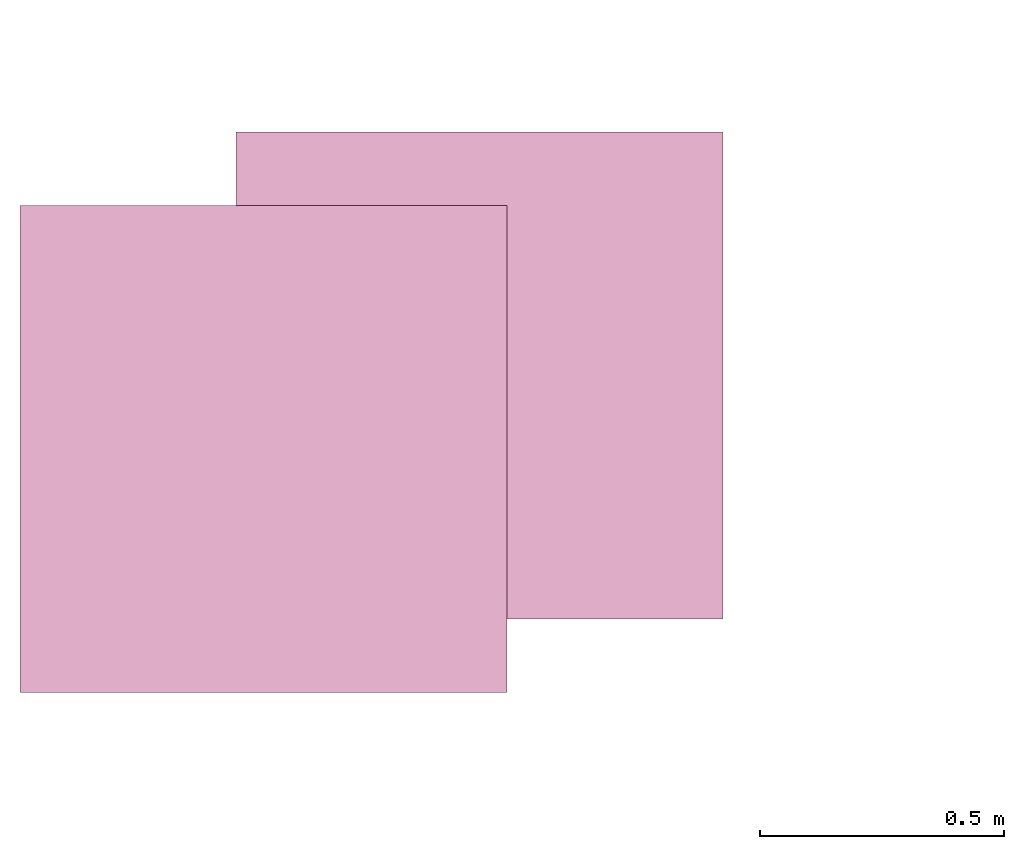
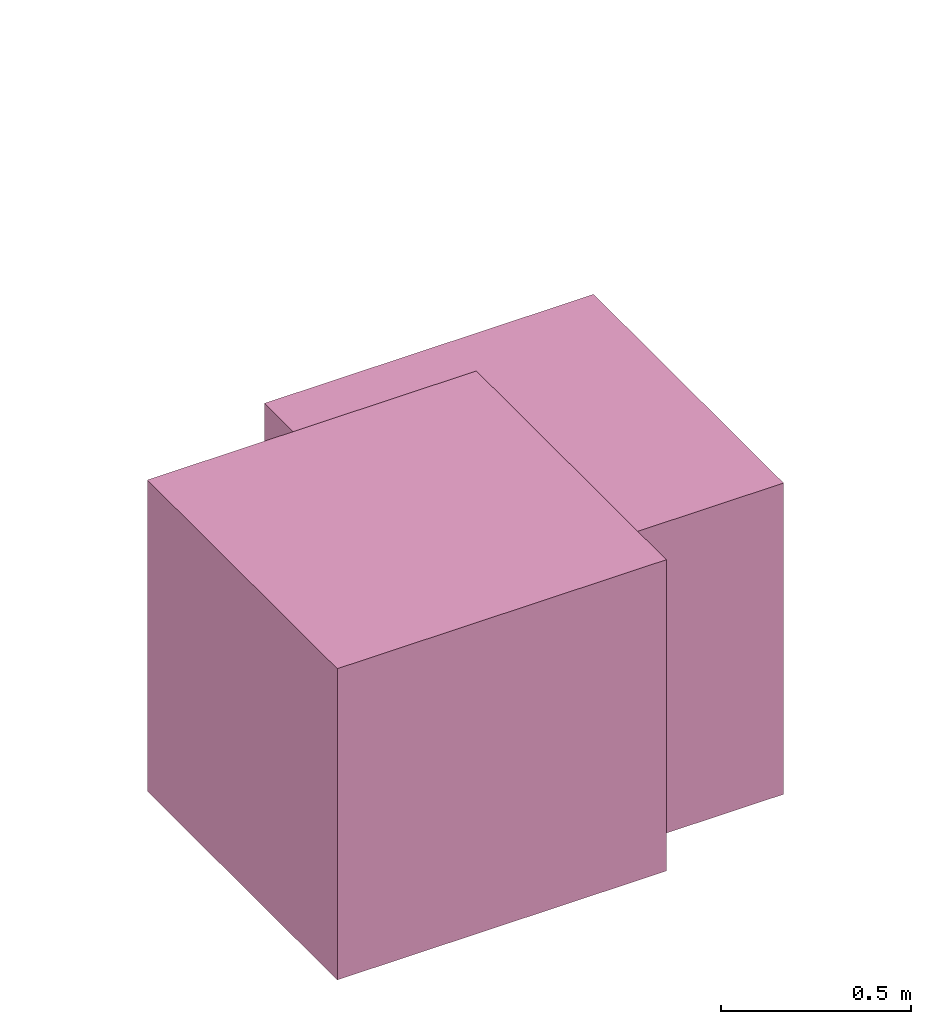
# One storey, part 5 of 5: 2 furnishings.
"""IFC2X3 building model written with IfcOpenShell, lengths in millimetres."""

import ifcopenshell
import ifcopenshell.guid

model = None  # the IFC model being written
_history = None  # IfcOwnerHistory: only IFC2X3 demands one
_inside = {}  # id of a spatial element -> (the spatial element, [elements in it])
_under = {}  # id of a project, library or spatial element -> (it, [spatial elements below it])
_declared = {}  # id of a project -> (the project, [libraries it declares])
_typed = {}  # id of a type object -> (the type object, [elements of that type])
_made_of = {}  # id of a material, layer set ... -> (it, [elements and type objects made of it])


def new_model(schema):
    """Start an empty IFC model of exactly this schema.

    Asked for "IFC4X3", IfcOpenShell would pick the latest addendum, in which some entities
    have other attributes; the version numbers below select the first issue.
    IFC2X3 requires an IfcOwnerHistory on every rooted entity: one is made here for all.
    """
    global model, _history
    if schema == "IFC4X3":
        model = ifcopenshell.file(schema_version=(4, 3, 0, 0))
    else:
        model = ifcopenshell.file(schema=schema)
    _inside.clear()
    _under.clear()
    _declared.clear()
    _typed.clear()
    _made_of.clear()
    _history = None
    if model.schema == "IFC2X3":
        org = make("IfcOrganization", Name="unknown")
        user = make(
            "IfcPersonAndOrganization",
            ThePerson=make("IfcPerson", FamilyName="unknown"),
            TheOrganization=org,
        )
        app = make(
            "IfcApplication",
            ApplicationDeveloper=org,
            Version="unknown",
            ApplicationFullName="unknown",
            ApplicationIdentifier="unknown",
        )
        _history = make(
            "IfcOwnerHistory",
            OwningUser=user,
            OwningApplication=app,
            ChangeAction="ADDED",
            CreationDate=0,
        )
    return model


def make(cls, **values):
    """One entity of the class cls with the attributes given. An attribute that is None is left unset."""
    return model.create_entity(
        cls, **{name: value for name, value in values.items() if value is not None}
    )


def entity(cls, *values):
    """Any entity or typed value of the class cls, its attributes in the order of the schema. None: left unset."""
    e = model.create_entity(cls)
    for i, value in enumerate(values):
        if value is not None:
            e[i] = value
    return e


def rooted(cls, **values):
    """An entity with a GlobalId (a new one), such as an element, a storey or a relation."""
    return make(cls, GlobalId=ifcopenshell.guid.new(), OwnerHistory=_history, **values)


def si_unit(unit_type, name, prefix=None):
    """IfcSIUnit, for example si_unit("LENGTHUNIT", "METRE", prefix="MILLI")."""
    return make("IfcSIUnit", UnitType=unit_type, Prefix=prefix, Name=name)


def converted_unit(unit_type, name, factor, base, dimensions=None, offset=None):
    """IfcConversionBasedUnit, such as the inch: factor (a typed value) times the base unit."""
    return make(
        "IfcConversionBasedUnit"
        if offset is None
        else "IfcConversionBasedUnitWithOffset",
        ConversionOffset=offset,
        Dimensions=None
        if dimensions is None
        else entity("IfcDimensionalExponents", *dimensions),
        UnitType=unit_type,
        Name=name,
        ConversionFactor=make(
            "IfcMeasureWithUnit", ValueComponent=factor, UnitComponent=base
        ),
    )


def derived_unit(unit_type, elements):
    """IfcDerivedUnit: a product of units, each with its exponent."""
    return make(
        "IfcDerivedUnit",
        Elements=[
            make("IfcDerivedUnitElement", Unit=unit, Exponent=power)
            for unit, power in elements
        ],
        UnitType=unit_type,
    )


def money_unit(currency):
    """IfcMonetaryUnit."""
    return make("IfcMonetaryUnit", Currency=currency)


def assignment(units):
    """IfcUnitAssignment: the units of a project."""
    return None if units is None else make("IfcUnitAssignment", Units=units)


def point(xyz):
    """IfcCartesianPoint."""
    return None if xyz is None else make("IfcCartesianPoint", Coordinates=xyz)


def direction(xyz):
    """IfcDirection."""
    return None if xyz is None else make("IfcDirection", DirectionRatios=xyz)


def frame(location, z_axis=None, x_axis=None):
    """IfcAxis2Placement3D, a coordinate frame: its origin and axes. An axis left out is left unset."""
    return make(
        "IfcAxis2Placement3D",
        Location=point(location),
        Axis=direction(z_axis),
        RefDirection=direction(x_axis),
    )


def origin_with_axes():
    """The frame at (0, 0, 0) with the z axis (0, 0, 1) and the x axis (1, 0, 0) written out."""
    return frame((0.0, 0.0, 0.0), z_axis=(0.0, 0.0, 1.0), x_axis=(1.0, 0.0, 0.0))


def place(relative_to, where):
    """IfcLocalPlacement: puts the frame where relative to a parent placement (None: the world)."""
    return make(
        "IfcLocalPlacement", PlacementRelTo=relative_to, RelativePlacement=where
    )


def context(
    kind, dimensions, precision=None, world=None, true_north=None, identifier=None
):
    """IfcGeometricRepresentationContext, for example the 3D "Model" context."""
    return make(
        "IfcGeometricRepresentationContext",
        ContextIdentifier=identifier,
        ContextType=kind,
        CoordinateSpaceDimension=dimensions,
        Precision=precision,
        WorldCoordinateSystem=world,
        TrueNorth=true_north,
    )


def subcontext(parent, identifier, kind, view, scale=None):
    """IfcGeometricRepresentationSubContext, for example "Body" below "Model"."""
    return make(
        "IfcGeometricRepresentationSubContext",
        ContextIdentifier=identifier,
        ContextType=kind,
        ParentContext=parent,
        TargetScale=scale,
        TargetView=view,
    )


def project(units=None, contexts=None):
    """IfcProject with its units and contexts."""
    return rooted(
        "IfcProject",
        Name="project",
        RepresentationContexts=contexts,
        UnitsInContext=assignment(units),
    )


def spatial(cls, under=None, at=None, **own):
    """A site, building, storey or space (cls), placed at a placement, below another one or the project."""
    s = rooted(cls, ObjectPlacement=at, **own)
    if under is not None:
        _under.setdefault(under.id(), (under, []))[1].append(s)
    return s


def faces_of(points, faces, orient=None, outer=None):
    """IfcFace entities. A face is a list of loops; a loop is a list of indices into points, from 0.

    orient and outer hold one flag for each loop. By default every Orientation is true, the
    first loop of a face is its IfcFaceOuterBound and the others are IfcFaceBound.
    """
    made = []
    for i, loops in enumerate(faces):
        bounds = []
        for j, loop in enumerate(loops):
            is_outer = j == 0 if outer is None else outer[i][j]
            bounds.append(
                make(
                    "IfcFaceOuterBound" if is_outer else "IfcFaceBound",
                    Bound=make("IfcPolyLoop", Polygon=[points[k] for k in loop]),
                    Orientation=True if orient is None else orient[i][j],
                )
            )
        made.append(make("IfcFace", Bounds=bounds))
    return made


def faceted_brep(points, faces, orient=None, outer=None, voids=None):
    """IfcFacetedBrep: a solid bounded by flat faces; with voids (closed shells), ...WithVoids."""
    shared = [point(p) for p in points]
    hull = make("IfcClosedShell", CfsFaces=faces_of(shared, faces, orient, outer))
    if voids is None:
        return make("IfcFacetedBrep", Outer=hull)
    return make(
        "IfcFacetedBrepWithVoids",
        Outer=hull,
        Voids=[
            make(cls, CfsFaces=faces_of(shared, fs, o, b)) for cls, fs, o, b in voids
        ],
    )


def shape(context_of_items, identifier, shape_type, items):
    """IfcShapeRepresentation: the items that make up one representation, for example the "Body"."""
    return make(
        "IfcShapeRepresentation",
        ContextOfItems=context_of_items,
        RepresentationIdentifier=identifier,
        RepresentationType=shape_type,
        Items=items,
    )


def source(mapping_origin, context_of_items, identifier, shape_type, items):
    """IfcRepresentationMap: a shape defined once, which mapped items show again and again."""
    return make(
        "IfcRepresentationMap",
        MappingOrigin=mapping_origin,
        MappedRepresentation=shape(context_of_items, identifier, shape_type, items),
    )


def transform(
    local_origin,
    x_axis=None,
    y_axis=None,
    z_axis=None,
    scale=None,
    scale2=None,
    scale3=None,
    uniform=True,
):
    """IfcCartesianTransformationOperator3D, or its non-uniform kind. x_axis, y_axis, z_axis: its Axis1, 2, 3."""
    if uniform:
        return make(
            "IfcCartesianTransformationOperator3D",
            Axis1=direction(x_axis),
            Axis2=direction(y_axis),
            LocalOrigin=point(local_origin),
            Scale=scale,
            Axis3=direction(z_axis),
        )
    return make(
        "IfcCartesianTransformationOperator3DnonUniform",
        Axis1=direction(x_axis),
        Axis2=direction(y_axis),
        LocalOrigin=point(local_origin),
        Scale=scale,
        Axis3=direction(z_axis),
        Scale2=scale2,
        Scale3=scale3,
    )


def mapped(mapping_source, mapping_target):
    """IfcMappedItem: shows the shape of a source again, moved by a transform."""
    return make(
        "IfcMappedItem", MappingSource=mapping_source, MappingTarget=mapping_target
    )


def made_of(thing, what):
    """Note that an element or type object is made of a material, layer set ...; save() writes the relation."""
    if what is not None:
        _made_of.setdefault(what.id(), (what, []))[1].append(thing)
    return thing


def type_object(cls, material=None, **own):
    """A type object (cls), such as IfcWallType, which elements share."""
    return made_of(rooted(cls, **own), material)


def type_shapes(of_type, sources):
    """Give a type object the sources (RepresentationMaps) that its elements show as mapped items."""
    of_type.RepresentationMaps = sources


def element(
    cls,
    number,
    at=None,
    inside=None,
    cuts=None,
    type_object=None,
    material=None,
    context=None,
    identifier="Body",
    shape_type=None,
    held_by="IfcProductDefinitionShape",
    body=None,
    shapes=None,
    **own,
):
    """One element of the class cls, such as IfcWall. Its Tag is "e" and its number.

    at: its placement. inside: the storey or other place that contains it. cuts: it is an
    opening in that element (IfcRelVoidsElement). A single representation is given by context,
    identifier, shape_type and body (its items); several are given by shapes. held_by: the class
    of the entity that holds the representations. save() writes the other relations.
    """
    e = rooted(cls, Tag="e%d" % number, ObjectPlacement=at, **own)
    if body is not None:
        shapes = [shape(context, identifier, shape_type, body)]
    if shapes is not None:
        e.Representation = make(held_by, Representations=shapes)
    if inside is not None:
        _inside.setdefault(inside.id(), (inside, []))[1].append(e)
    if cuts is not None:
        rooted(
            "IfcRelVoidsElement", RelatingBuildingElement=cuts, RelatedOpeningElement=e
        )
    if type_object is not None:
        _typed.setdefault(type_object.id(), (type_object, []))[1].append(e)
    return made_of(e, material)


def aggregate(whole, parts):
    """IfcRelAggregates: a whole, such as a stair, and the parts it consists of."""
    return rooted("IfcRelAggregates", RelatingObject=whole, RelatedObjects=parts)


def save(model, path):
    """Write the relations noted so far, then the file.

    IfcRelAggregates (storeys below a building ...), IfcRelContainedInSpatialStructure (elements
    in a storey), IfcRelDefinesByType, IfcRelAssociatesMaterial and IfcRelDeclares: one each for
    every whole, place, type object, material and project.
    """
    for whole, parts in _under.values():
        aggregate(whole, parts)
    for where, things in _inside.values():
        rooted(
            "IfcRelContainedInSpatialStructure",
            RelatedElements=things,
            RelatingStructure=where,
        )
    for kind, things in _typed.values():
        rooted("IfcRelDefinesByType", RelatedObjects=things, RelatingType=kind)
    for what, things in _made_of.values():
        rooted("IfcRelAssociatesMaterial", RelatedObjects=things, RelatingMaterial=what)
    for by, libraries in _declared.values():
        rooted("IfcRelDeclares", RelatingContext=by, RelatedDefinitions=libraries)
    model.write(path)


model = new_model("IFC2X3")

# Units and contexts
model_context = context("Model", 3, precision=0.01, world=origin_with_axes(), true_north=direction((0.0, 1.0)))
body_context = subcontext(model_context, "Body", "Model", "MODEL_VIEW")
ifc_project = project(units=[si_unit("LENGTHUNIT", "METRE", prefix="MILLI"), si_unit("AREAUNIT", "SQUARE_METRE"), si_unit("VOLUMEUNIT", "CUBIC_METRE"), converted_unit("PLANEANGLEUNIT", "DEGREE", entity("IfcPlaneAngleMeasure", 0.0174532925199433), si_unit("PLANEANGLEUNIT", "RADIAN"), dimensions=[0, 0, 0, 0, 0, 0, 0]), money_unit("EUR"), converted_unit("TIMEUNIT", "Year", entity("IfcTimeMeasure", 31557600.0), si_unit("TIMEUNIT", "SECOND"), dimensions=[0, 0, 1, 0, 0, 0, 0]), si_unit("MASSUNIT", "GRAM", prefix="KILO"), si_unit("THERMODYNAMICTEMPERATUREUNIT", "DEGREE_CELSIUS"), si_unit("LUMINOUSINTENSITYUNIT", "LUMEN"), si_unit("ENERGYUNIT", "JOULE", prefix="MEGA"), derived_unit("THERMALCONDUCTANCEUNIT", [(si_unit("POWERUNIT", "WATT"), 1), (si_unit("LENGTHUNIT", "METRE"), -1), (si_unit("THERMODYNAMICTEMPERATUREUNIT", "KELVIN"), -1)]), derived_unit("SPECIFICHEATCAPACITYUNIT", [(si_unit("ENERGYUNIT", "JOULE"), 1), (si_unit("MASSUNIT", "GRAM", prefix="KILO"), -1), (si_unit("THERMODYNAMICTEMPERATUREUNIT", "KELVIN"), -1)]), derived_unit("MASSDENSITYUNIT", [(si_unit("MASSUNIT", "GRAM", prefix="KILO"), 1), (si_unit("VOLUMEUNIT", "CUBIC_METRE"), -1)])], contexts=[model_context])

# Site, building, storey
site_placement = place(None, origin_with_axes())
site = spatial("IfcSite", under=ifc_project, at=site_placement, Name="<site naam>", CompositionType="ELEMENT")
building_placement = place(site_placement, origin_with_axes())
building = spatial("IfcBuilding", under=site, at=building_placement, Name="<Naam gebouw>", CompositionType="ELEMENT")
storey_placement = place(building_placement, frame((0.0, 0.0, -3730.0), z_axis=(0.0, 0.0, 1.0), x_axis=(1.0, 0.0, 0.0)))
storey = spatial("IfcBuildingStorey", under=building, at=storey_placement, Name="Kelder", CompositionType="ELEMENT", Elevation=-3730.0)

# Furnishings
furnishing_element_type = type_object("IfcFurnishingElementType", Name="Kubus 27")
shared_shape = source(origin_with_axes(), body_context, "Body", "Brep", [
    faceted_brep([(1000.0, 0.0, 0.0), (0.0, 0.0, 0.0), (0.0, 1000.0, 0.0), (1000.0, 1000.0, 0.0), (1000.0, 0.0, 1000.0), (0.0, 0.0, 1000.0), (0.0, 1000.0, 1000.0), (1000.0, 1000.0, 1000.0)], [[[0, 1, 2, 3]], [[1, 0, 4, 5]], [[2, 1, 5, 6]], [[3, 2, 6, 7]], [[0, 3, 7, 4]], [[5, 4, 7, 6]]]),
])
type_shapes(furnishing_element_type, [shared_shape])
for number, where, z_axis, x_axis, name in (
    (1, (5753.055806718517, 8029.313097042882, 0.0), (0.0, 0.0, 1.0), (1.0, 0.0, 0.0), "73_Wasmachine_Lege"),
    (2, (6196.088298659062, 8179.776962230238, 0.0), (0.0, 0.0, 1.0), (1.0, 0.0, 0.0), "73_Wasmachine_Lege"),
):
    element("IfcFurnishingElement", number, at=place(storey_placement, frame(where, z_axis=z_axis, x_axis=x_axis)), inside=storey, type_object=furnishing_element_type, Name=name, context=body_context, shape_type="MappedRepresentation", body=[
        mapped(shared_shape, transform((0.0, 0.0, 0.0))),
    ])

save(model, "model.ifc")
